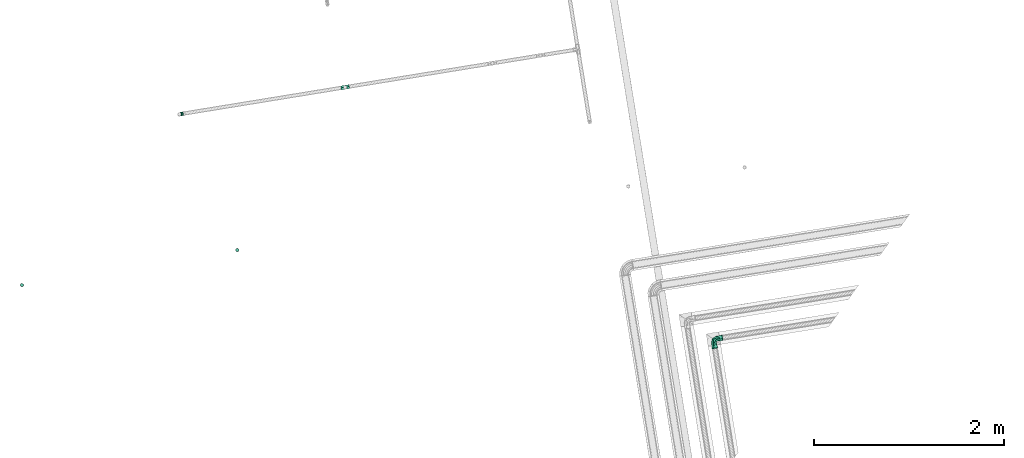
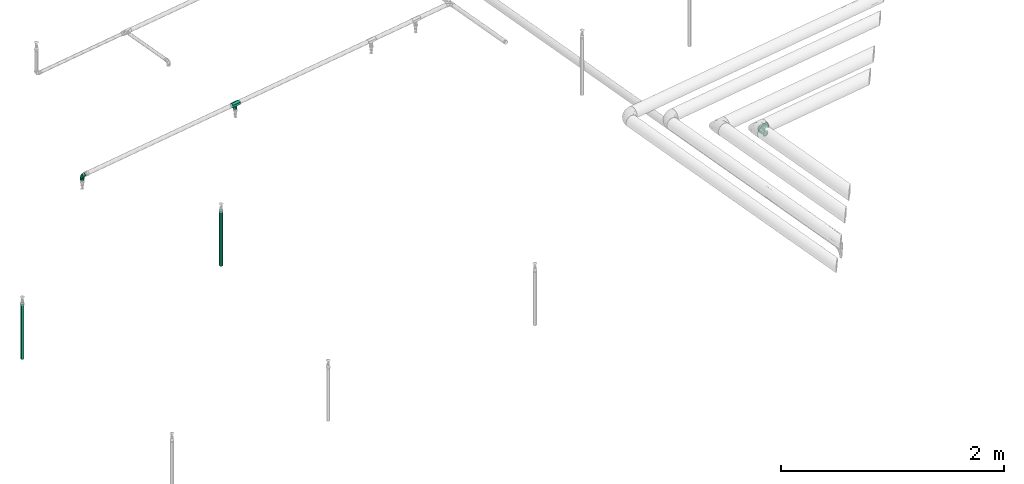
# One storey, part 20 of 46: 3 flow fittings, 2 flow segments.
"""IFC2X3 building model written with IfcOpenShell, lengths in millimetres."""

from ifc_helpers import new_model, entity, si_unit, converted_unit, derived_unit, direction, frame, origin, origin_with_axes, origin_2d_with_axis, place, context, subcontext, project, spatial, circle, extrude, faceted_brep, source, transform, mapped, material, material_list, type_object, element, save


model = new_model("IFC2X3")

# Units and contexts
model_context = context("Model", 3, precision=0.01, world=origin(), true_north=direction((6.12323399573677e-17, 1.0)))
plan_context = context("Plan", 3, precision=1e-05, world=origin_with_axes())
body_context = subcontext(model_context, "Body", "Model", "MODEL_VIEW")
ifc_project = project(units=[converted_unit("PLANEANGLEUNIT", "DEGREE", entity("IfcPositiveLengthMeasure", 0.0174532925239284), si_unit("PLANEANGLEUNIT", "RADIAN"), dimensions=[0, 0, 0, 0, 0, 0, 0]), si_unit("AREAUNIT", "SQUARE_METRE"), si_unit("LENGTHUNIT", "METRE", prefix="MILLI"), si_unit("MASSUNIT", "GRAM", prefix="KILO"), si_unit("POWERUNIT", "WATT"), si_unit("PRESSUREUNIT", "PASCAL", prefix="KILO"), si_unit("FORCEUNIT", "NEWTON", prefix="KILO"), si_unit("ELECTRICVOLTAGEUNIT", "VOLT"), si_unit("ELECTRICCURRENTUNIT", "AMPERE"), si_unit("THERMODYNAMICTEMPERATUREUNIT", "DEGREE_CELSIUS"), si_unit("TIMEUNIT", "SECOND"), si_unit("VOLUMEUNIT", "CUBIC_METRE"), derived_unit("LINEARVELOCITYUNIT", [(si_unit("LENGTHUNIT", "METRE"), 1), (si_unit("TIMEUNIT", "SECOND"), -1)]), derived_unit("VOLUMETRICFLOWRATEUNIT", [(si_unit("VOLUMEUNIT", "CUBIC_METRE"), 1), (si_unit("TIMEUNIT", "SECOND"), -1)]), derived_unit("THERMALTRANSMITTANCEUNIT", [(si_unit("POWERUNIT", "WATT"), 1), (si_unit("THERMODYNAMICTEMPERATUREUNIT", "KELVIN"), -1), (si_unit("AREAUNIT", "SQUARE_METRE"), -1)]), derived_unit("SOUNDPRESSUREUNIT", [(si_unit("PRESSUREUNIT", "PASCAL"), 1)])], contexts=[model_context, plan_context])

# Site, building, storey
site_placement = place(None, frame((-3.09682673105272e-06, 1.93776733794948e-05, 0.0), z_axis=(0.0, 0.0, 1.0), x_axis=(-0.160806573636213, 0.986985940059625, 0.0)))
site = spatial("IfcSite", under=ifc_project, at=site_placement, Name="Default", CompositionType="ELEMENT")
building_placement = place(site_placement, frame((0.0, 0.0, 0.0), z_axis=(0.0, 0.0, 1.0), x_axis=(1.0, -2.77555756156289e-17, 0.0)))
building = spatial("IfcBuilding", under=site, at=building_placement, Name="Bygning (endres i Project Information)", CompositionType="ELEMENT")
storey_placement = place(building_placement, frame((0.0, 0.0, 51360.0000000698), z_axis=(0.0, 0.0, 1.0), x_axis=(1.0, -2.77555756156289e-17, 0.0)))
storey = spatial("IfcBuildingStorey", under=building, at=storey_placement, Name="H01-Nivå D+0,36", CompositionType="ELEMENT", Elevation=51360.0000000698)

# Flow fittings
ifc_material_1 = material(Name="3320.001")
pipe_fitting_type_1 = type_object("IfcPipeFittingType", Name="RS_53_PIF_UN_Tee-Reduced-EN10241_MC_gen:RS_53_PIF_UN_Tee-Reduced-EN10241_MC_gen", PredefinedType="NOTDEFINED", material=ifc_material_1)
shared_shape_1 = source(origin(), body_context, "Body", "Brep", [
    faceted_brep([(44.0, 24.4999999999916, 0.0), (44.0, 18.3749999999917, 10.6088111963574), (44.0, 12.2499999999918, 21.2176223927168), (44.0, 0.0, 21.2176223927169), (44.0, -12.2500000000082, 21.217622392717), (44.0, -18.3750000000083, 10.6088111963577), (44.0, -24.5000000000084, 0.0), (44.0, -21.6281924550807, -4.97411657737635), (44.0, -18.3750000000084, -10.6088111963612), (44.0, -12.2500000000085, -21.2176223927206), (44.0, 0.0, -21.2176223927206), (44.0, 12.2499999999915, -21.2176223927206), (44.0, 18.3749999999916, -10.6088111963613), (-44.0, -12.2500000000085, -21.2176223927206), (-44.0, -18.3750000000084, -10.6088111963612), (-44.0, -24.5000000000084, 0.0), (-44.0, -21.6281923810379, 4.97411670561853), (-44.0, -18.3750000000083, 10.6088111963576), (-44.0, -12.2500000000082, 21.217622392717), (-44.0, 0.0, 21.2176223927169), (-44.0, 12.2499999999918, 21.2176223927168), (-44.0, 18.7563847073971, 9.94823350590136), (-44.0, 24.4999999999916, 0.0), (-44.0, 18.3749999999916, -10.6088111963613), (-44.0, 12.2499999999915, -21.2176223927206), (-44.0, 0.0, -21.2176223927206), (-8.07289668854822, -19.7195683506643, 9.70917342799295), (3.60420662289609, -14.9391367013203, 19.4183468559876), (15.7135516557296, -22.1097841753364, 4.85458671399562), (-19.7499999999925, -24.5000000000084, 0.0), (11.6771033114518, -19.7195683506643, 9.70917342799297), (19.7500000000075, -24.5000000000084, 0.0), (-15.715142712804, -22.1101683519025, -4.85429113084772), (-3.61057085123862, -14.9406734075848, -19.4171645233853), (-11.6802854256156, -19.7203367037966, -9.70858226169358), (8.06971457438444, -19.7203367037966, -9.70858226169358), (9.87500000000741, -51.0, -17.1040017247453), (14.8125000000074, -51.0, -8.55200086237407), (19.7500000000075, -51.0, 0.0), (14.8125000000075, -51.0, 8.55200086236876), (9.87500000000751, -51.0, 17.1040017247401), (0.0, -51.0, 17.1040017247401), (-9.87499999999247, -51.0, 17.1040017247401), (-14.8124999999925, -51.0, 8.55200086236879), (-19.7499999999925, -51.0, 0.0), (-14.8124999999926, -51.0, -8.55200086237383), (-9.87499999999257, -51.0, -17.1040017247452), (0.0, -51.0, -17.1040017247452)], [[[0, 1, 2, 3, 4, 5, 6, 7, 8, 9, 10, 11, 12]], [[13, 14, 15, 16, 17, 18, 19, 20, 21, 22, 23, 24, 25]], [[1, 0, 22, 21, 20, 2]], [[2, 20, 19, 3]], [[26, 17, 16]], [[18, 27, 19]], [[28, 6, 5]], [[29, 16, 15]], [[5, 27, 30, 28]], [[5, 4, 27]], [[27, 17, 26]], [[17, 27, 18]], [[26, 16, 29]], [[6, 28, 31]], [[19, 27, 3]], [[4, 3, 27]], [[32, 15, 14]], [[14, 33, 34, 32]], [[31, 7, 6]], [[35, 8, 7]], [[8, 33, 9]], [[33, 8, 35]], [[15, 32, 29]], [[24, 23, 22, 0, 12, 11]], [[25, 24, 11, 10]], [[14, 13, 33]], [[13, 25, 33]], [[35, 7, 31]], [[10, 33, 25]], [[10, 9, 33]], [[36, 37, 38, 39, 40, 41, 42, 43, 44, 45, 46, 47]], [[29, 45, 44]], [[34, 46, 45]], [[35, 36, 47]], [[33, 46, 34]], [[37, 36, 35]], [[45, 29, 32, 34]], [[31, 37, 35]], [[37, 31, 38]], [[47, 46, 33]], [[35, 47, 33]], [[31, 39, 38]], [[30, 40, 39]], [[26, 42, 41]], [[27, 40, 30]], [[43, 42, 26]], [[39, 31, 28, 30]], [[29, 43, 26]], [[43, 29, 44]], [[41, 40, 27]], [[26, 41, 27]]]),
])
flow_fitting_1_placement = place(storey_placement, frame((1002299.88520526, -344152.032953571, 3458.80002629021), z_axis=(1.0, -2.77555756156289e-17, 0.0), x_axis=(2.77555756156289e-17, 1.0, 0.0)))
element("IfcFlowFitting", 1, at=flow_fitting_1_placement, inside=storey, type_object=pipe_fitting_type_1, material=ifc_material_1, Name="RS_53_PIF_UN_Tee-Reduced-EN10241_MC_gen:RS_53_PIF_UN_Tee-Reduced-EN10241_MC_gen", ObjectType="RS_53_PIF_UN_Tee-Reduced-EN10241_MC_gen:RS_53_PIF_UN_Tee-Reduced-EN10241_MC_gen", context=body_context, shape_type="MappedRepresentation", body=[
    mapped(shared_shape_1, transform((0.0, 0.0, 0.0), scale=1.0)),
])
pipe_fitting_type_2 = type_object("IfcPipeFittingType", Name="RS_53_PIF_UN_Elbow-EN10241_NOR:RS_53_PIF_UN_Elbow-EN10241_NOR", PredefinedType="NOTDEFINED", material=ifc_material_1)
shared_shape_2 = source(origin(), body_context, "Body", "Brep", [
    faceted_brep([(-43.0, 5.11167614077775, 19.0770350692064), (-43.0, 17.1040017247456, 9.87499999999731), (-43.0, 19.7500000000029, 0.0), (-43.0, 17.1040017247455, -9.87500000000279), (-43.0, 5.11167614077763, -19.0770350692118), (-43.0, -5.11167614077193, -19.0770350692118), (-43.0, -17.1040017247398, -9.87500000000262), (-43.0, -19.7499999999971, 0.0), (-43.0, -17.1040017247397, 9.87499999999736), (-43.0, -5.11167614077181, 19.0770350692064), (-21.7499999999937, -19.7499999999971, 0.0), (-21.7499999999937, -15.1293510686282, -12.6950870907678), (-21.7499999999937, -3.42946974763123, -19.4499675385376), (-21.7499999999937, 15.1294711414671, -12.694943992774), (-21.7499999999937, 19.7500000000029, 0.0), (-21.7499999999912, 5.85000069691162, -16.072455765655), (-21.7499999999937, 15.1294711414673, 12.6949439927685), (-21.7499999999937, 3.42965371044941, 19.4499351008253), (-21.7499999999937, -15.1293510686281, 12.6950870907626), (-5.41688095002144, -10.3200693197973, 0.0), (0.655979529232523, -2.00253561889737, 16.4678355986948), (-11.0449015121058, 9.84579831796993, 18.897380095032), (-18.5589216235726, 21.7499999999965, 6.75491881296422), (-15.1293490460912, 21.7499999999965, 12.6950895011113), (-20.3357864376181, 20.3357864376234, 0.0), (-19.7499999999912, 21.7499999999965, 0.0), (14.190054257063, 1.0, 0.0), (12.6950125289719, 21.7499999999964, 15.1294136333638), (6.75482439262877, 21.7499999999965, 18.5589559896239), (17.2232575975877, 12.3200689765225, 0.0), (-6.754824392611, 21.7499999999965, 18.558955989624), (19.7500000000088, 21.7499999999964, 0.0), (18.5589216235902, 21.7499999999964, 6.75491881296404), (0.0, 21.7499999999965, 19.7499999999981), (-18.5589216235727, 21.7499999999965, -6.75491881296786), (-10.1618436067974, 10.1618877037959, -19.0082217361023), (1.2569166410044, -0.890945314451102, -16.7093898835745), (0.0, 21.7499999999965, -19.7500000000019), (-6.75482439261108, 21.7499999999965, -18.5589559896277), (-12.6950125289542, 21.7499999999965, -15.1294136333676), (18.5589216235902, 21.7499999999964, -6.75491881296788), (15.1293490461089, 21.7499999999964, -12.6950895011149), (6.75482439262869, 21.7499999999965, -18.5589559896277), (-9.8749999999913, 43.0, 17.1040017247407), (0.0, 43.0, 19.7499999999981), (9.8750000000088, 43.0, 17.1040017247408), (19.0770350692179, 43.0, 5.11167614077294), (19.0770350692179, 43.0, -5.11167614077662), (9.87500000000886, 43.0, -17.1040017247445), (0.0, 43.0, -19.7500000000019), (-9.87499999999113, 43.0, -17.1040017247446), (-19.0770350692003, 43.0, -5.11167614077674), (-19.0770350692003, 43.0, 5.11167614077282)], [[[0, 1, 2, 3, 4, 5, 6, 7, 8, 9]], [[7, 6, 10]], [[6, 11, 10]], [[11, 6, 5]], [[11, 5, 12]], [[13, 4, 3]], [[14, 3, 2]], [[4, 13, 15, 12]], [[13, 3, 14]], [[4, 12, 5]], [[2, 1, 14]], [[1, 16, 14]], [[16, 1, 0]], [[16, 0, 17]], [[18, 9, 8]], [[10, 8, 7]], [[9, 18, 17]], [[18, 8, 10]], [[9, 17, 0]], [[18, 19, 20]], [[20, 21, 17]], [[22, 16, 23]], [[16, 17, 21]], [[24, 14, 22]], [[22, 25, 24]], [[14, 16, 22]], [[20, 26, 27]], [[27, 28, 20]], [[26, 29, 27]], [[23, 21, 30]], [[31, 32, 29]], [[18, 20, 17]], [[26, 20, 19]], [[21, 23, 16]], [[18, 10, 19]], [[33, 21, 20]], [[33, 30, 21]], [[27, 29, 32]], [[33, 20, 28]], [[14, 24, 34]], [[25, 34, 24]], [[12, 35, 36]], [[14, 34, 13]], [[36, 19, 11]], [[37, 35, 38]], [[38, 35, 39]], [[10, 11, 19]], [[34, 39, 13]], [[37, 36, 35]], [[36, 11, 12]], [[39, 35, 13]], [[40, 31, 29]], [[41, 36, 42]], [[36, 37, 42]], [[41, 40, 29]], [[26, 36, 41]], [[29, 26, 41]], [[19, 36, 26]], [[13, 35, 12, 15]], [[43, 44, 45, 46, 47, 48, 49, 50, 51, 52]], [[49, 37, 38]], [[50, 38, 39]], [[49, 38, 50]], [[51, 50, 39]], [[51, 34, 25]], [[34, 51, 39]], [[52, 25, 22]], [[22, 23, 52]], [[30, 43, 23]], [[52, 23, 43]], [[44, 43, 30]], [[33, 44, 30]], [[25, 52, 51]], [[44, 33, 28]], [[45, 28, 27]], [[44, 28, 45]], [[46, 45, 27]], [[46, 32, 31]], [[32, 46, 27]], [[47, 31, 40]], [[40, 41, 47]], [[42, 48, 41]], [[47, 41, 48]], [[49, 48, 42]], [[37, 49, 42]], [[31, 47, 46]]]),
])
flow_fitting_2_placement = place(storey_placement, frame((1002299.88520526, -342381.062917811, 3458.79748285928), z_axis=(1.0, -2.77555756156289e-17, 0.0), x_axis=(0.0, 0.0, 1.0)))
element("IfcFlowFitting", 2, at=flow_fitting_2_placement, inside=storey, type_object=pipe_fitting_type_2, material=ifc_material_1, Name="RS_53_PIF_UN_Elbow-EN10241_NOR:RS_53_PIF_UN_Elbow-EN10241_NOR", ObjectType="RS_53_PIF_UN_Elbow-EN10241_NOR:RS_53_PIF_UN_Elbow-EN10241_NOR", context=body_context, shape_type="MappedRepresentation", body=[
    mapped(shared_shape_2, transform((0.0, 0.0, 0.0), scale=1.0)),
])
ifc_material_2 = material(Name="Geberit_Plastic_Red")
ifc_material_3 = material(Name="Geberit_Mapress_C-Steel")
ifc_material_list = material_list([ifc_material_2, ifc_material_3])
pipe_fitting_type_3 = type_object("IfcPipeFittingType", Name="PRO_103184:DN10-100 / d12-108 - OD", PredefinedType="BEND", material=ifc_material_list)
shared_shape_3 = source(origin(), body_context, "Body", "Brep", [
    faceted_brep([(-8.80698433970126, 100.0, -27.1051107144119), (-9.84650783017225, 92.0, -13.552555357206), (-6.27743726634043, 92.0, -16.1456369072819), (8.80698433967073, 92.0, -27.1051107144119), (-15.6876901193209, 100.0, -17.6346316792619), (-28.5000000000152, 92.0, 0.0), (9.84650783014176, 100.0, -13.552555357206), (18.6534921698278, 92.0, -13.552555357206), (28.4999999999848, 92.0, 0.0), (28.4999999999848, 100.0, 0.0), (-28.5000000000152, 100.0, 0.0), (8.80698433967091, 100.0, 27.1051107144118), (9.84650783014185, 92.0, 13.5525553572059), (6.27743726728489, 92.0, 16.1456369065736), (-8.80698433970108, 92.0, 27.1051107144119), (15.6876904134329, 100.0, 17.6346312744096), (-9.84650783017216, 100.0, 13.552555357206), (-18.6534921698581, 92.0, 13.5525553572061), (-23.6776285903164, 98.4509619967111, -21.0189790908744), (-23.6307699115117, 94.6274304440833, -21.9569893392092), (-32.5000000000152, 96.0, 0.0), (-1.90597797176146, 95.9349964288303, -32.4435342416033), (23.6776286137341, 93.5490379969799, -21.0189790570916), (32.4999999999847, 96.0, 0.0), (-6.15280214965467, 98.7902501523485, -30.7567062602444), (22.1275082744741, 97.7912013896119, -23.222347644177), (23.6776285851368, 98.4509619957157, 21.0189790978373), (23.6307699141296, 94.6274304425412, 21.9569893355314), (1.90597798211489, 95.9349964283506, 32.4435342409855), (-23.6776286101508, 93.5490379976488, 21.0189790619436), (6.15280214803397, 98.7902501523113, 30.7567062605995), (-22.1275082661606, 97.7912013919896, 23.2223476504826)], [[[0, 1, 2, 3]], [[4, 1, 0]], [[4, 5, 1]], [[6, 0, 3]], [[6, 3, 7]], [[7, 8, 9]], [[4, 10, 5]], [[6, 7, 9]], [[11, 12, 13, 14]], [[15, 8, 12]], [[15, 12, 11]], [[16, 14, 17]], [[17, 5, 10]], [[16, 17, 10]], [[15, 9, 8]], [[16, 11, 14]], [[18, 10, 4, 0]], [[19, 2, 1, 5]], [[18, 19, 20]], [[3, 2, 21]], [[5, 20, 19]], [[3, 21, 22]], [[23, 8, 22]], [[19, 18, 21]], [[20, 10, 18]], [[22, 8, 7, 3]], [[0, 24, 18]], [[25, 23, 22]], [[21, 2, 19]], [[24, 6, 25]], [[25, 22, 21]], [[25, 21, 24]], [[9, 23, 25]], [[21, 18, 24]], [[6, 24, 0]], [[6, 9, 25]], [[26, 9, 15, 11]], [[27, 13, 12, 8]], [[26, 27, 23]], [[14, 13, 28]], [[8, 23, 27]], [[14, 28, 29]], [[20, 5, 29]], [[27, 26, 28]], [[23, 9, 26]], [[29, 5, 17, 14]], [[11, 30, 26]], [[31, 20, 29]], [[28, 13, 27]], [[30, 16, 31]], [[31, 29, 28]], [[31, 28, 30]], [[10, 20, 31]], [[28, 26, 30]], [[16, 30, 11]], [[16, 10, 31]]]),
    faceted_brep([(-8.3434588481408, 100.0, -25.6785259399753), (-9.32827057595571, 64.0, -12.8392629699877), (-0.492405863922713, 64.0, -19.2588944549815), (8.34345884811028, 64.0, -25.6785259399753), (-15.3088252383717, 100.0, -16.0915215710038), (-27.0, 64.0, 0.0), (-18.1641352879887, 64.0, -6.41963148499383), (-27.0, 100.0, 0.0), (9.32827057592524, 100.0, -12.8392629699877), (13.0075941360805, 64.0, -19.2588944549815), (17.6717294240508, 64.0, -12.8392629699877), (27.0, 100.0, 0.0), (22.335864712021, 64.0, -6.4196314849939), (27.0, 64.0, 0.0), (8.34345884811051, 100.0, 25.6785259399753), (9.32827057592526, 64.0, 12.8392629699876), (0.492405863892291, 64.0, 19.2588944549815), (-8.34345884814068, 64.0, 25.6785259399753), (15.3088252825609, 100.0, 16.0915215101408), (18.1641352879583, 64.0, 6.41963148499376), (-9.32827057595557, 100.0, 12.8392629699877), (-13.0075941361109, 64.0, 19.2588944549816), (-17.6717294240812, 64.0, 12.8392629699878), (-22.3358647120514, 64.0, 6.419631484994), (28.4999999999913, 100.0, 0.0), (9.84650783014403, 100.0, -13.5525553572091), (-8.80698433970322, 100.0, -27.105110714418), (18.6534921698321, 100.0, 13.5525553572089), (8.80698433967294, 100.0, 27.105110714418), (-18.6534921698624, 100.0, -13.552555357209), (-28.5000000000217, 100.0, 0.0), (-9.84650783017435, 100.0, 13.5525553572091), (-18.6534921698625, 65.0, -13.552555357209), (-23.5767460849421, 65.0, -6.7762776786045), (-28.5000000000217, 65.0, 0.0), (-8.80698433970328, 65.0, -27.105110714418), (-13.7302382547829, 65.0, -20.3288330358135), (28.4999999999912, 65.0, 0.0), (19.1732539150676, 65.0, -6.77627767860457), (12.3186749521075, 65.0, -11.7564208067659), (9.84650783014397, 65.0, -13.5525553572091), (0.519761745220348, 65.0, -20.3288330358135), (18.6534921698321, 65.0, 13.5525553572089), (23.5767460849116, 65.0, 6.77627767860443), (8.80698433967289, 65.0, 27.105110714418), (13.7302382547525, 65.0, 20.3288330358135), (-19.1732539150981, 65.0, 6.77627767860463), (-12.3186749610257, 65.0, 11.7564208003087), (-9.84650783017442, 65.0, 13.5525553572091), (-0.519761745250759, 65.0, 20.3288330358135)], [[[0, 1, 2, 3]], [[4, 5, 6, 1]], [[4, 7, 5]], [[8, 3, 9, 10]], [[11, 10, 12, 13]], [[8, 10, 11]], [[8, 0, 3]], [[4, 1, 0]], [[14, 15, 16, 17]], [[18, 13, 19, 15]], [[18, 11, 13]], [[20, 17, 21, 22]], [[7, 22, 23, 5]], [[20, 22, 7]], [[20, 14, 17]], [[18, 15, 14]], [[11, 24, 25]], [[11, 25, 26]], [[26, 8, 11]], [[11, 27, 24]], [[11, 28, 27]], [[28, 11, 18]], [[28, 18, 14]], [[28, 14, 20]], [[28, 20, 7]], [[7, 26, 29]], [[26, 7, 4]], [[7, 29, 30]], [[7, 30, 31]], [[7, 31, 28]], [[26, 4, 0]], [[26, 0, 8]], [[32, 33, 34, 30, 29, 26, 35, 36]], [[24, 37, 38, 39, 40, 41, 35, 26, 25]], [[42, 43, 37, 24, 27, 28, 44, 45]], [[30, 34, 46, 47, 48, 49, 44, 28, 31]], [[1, 6, 32]], [[34, 33, 5]], [[5, 33, 6]], [[36, 35, 1, 32]], [[10, 40, 39, 38]], [[9, 3, 40, 10]], [[6, 33, 32]], [[41, 2, 35]], [[38, 12, 10]], [[2, 41, 3]], [[37, 12, 38]], [[13, 12, 37]], [[40, 3, 41]], [[35, 2, 1]], [[15, 19, 42]], [[37, 43, 13]], [[13, 43, 19]], [[45, 44, 15, 42]], [[22, 48, 47, 46]], [[21, 17, 48, 22]], [[19, 43, 42]], [[49, 16, 44]], [[46, 23, 22]], [[16, 49, 17]], [[34, 23, 46]], [[5, 23, 34]], [[48, 17, 49]], [[44, 16, 15]]]),
    faceted_brep([(-100.0, -8.8069843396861, -27.1051107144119), (-92.0, -9.84650783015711, -13.552555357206), (-92.0, -6.27743726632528, -16.1456369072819), (-92.0, 8.80698433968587, -27.1051107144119), (-100.0, -15.6876901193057, -17.6346316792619), (-92.0, -28.5000000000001, 0.0), (-100.0, 9.84650783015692, -13.552555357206), (-92.0, 18.6534921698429, -13.552555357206), (-92.0, 28.4999999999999, 0.0), (-100.0, 28.4999999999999, 0.0), (-100.0, -28.5000000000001, 0.0), (-100.0, 8.80698433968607, 27.1051107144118), (-92.0, 9.84650783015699, 13.5525553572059), (-92.0, 6.27743726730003, 16.1456369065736), (-92.0, -8.80698433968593, 27.1051107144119), (-100.0, 15.687690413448, 17.6346312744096), (-100.0, -9.846507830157, 13.552555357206), (-92.0, -18.653492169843, 13.5525553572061), (-98.4509619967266, -23.6776285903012, -21.0189790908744), (-94.6274304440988, -23.6307699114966, -21.9569893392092), (-96.0, -32.5, 0.0), (-95.9349964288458, -1.90597797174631, -32.4435342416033), (-93.5490379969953, 23.6776286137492, -21.0189790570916), (-96.0, 32.4999999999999, 0.0), (-98.790250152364, -6.15280214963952, -30.7567062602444), (-97.7912013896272, 22.1275082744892, -23.222347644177), (-98.4509619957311, 23.677628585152, 21.0189790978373), (-94.6274304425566, 23.6307699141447, 21.9569893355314), (-95.934996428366, 1.90597798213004, 32.4435342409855), (-93.5490379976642, -23.6776286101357, 21.0189790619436), (-98.7902501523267, 6.15280214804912, 30.7567062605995), (-97.7912013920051, -22.1275082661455, 23.2223476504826)], [[[0, 1, 2, 3]], [[4, 1, 0]], [[4, 5, 1]], [[6, 0, 3]], [[6, 3, 7]], [[7, 8, 9]], [[4, 10, 5]], [[6, 7, 9]], [[11, 12, 13, 14]], [[15, 8, 12]], [[15, 12, 11]], [[16, 14, 17]], [[17, 5, 10]], [[16, 17, 10]], [[15, 9, 8]], [[16, 11, 14]], [[18, 10, 4, 0]], [[19, 2, 1, 5]], [[18, 19, 20]], [[3, 2, 21]], [[5, 20, 19]], [[3, 21, 22]], [[23, 8, 22]], [[19, 18, 21]], [[20, 10, 18]], [[22, 8, 7, 3]], [[0, 24, 18]], [[25, 23, 22]], [[21, 2, 19]], [[24, 6, 25]], [[25, 22, 21]], [[25, 21, 24]], [[9, 23, 25]], [[21, 18, 24]], [[6, 24, 0]], [[6, 9, 25]], [[26, 9, 15, 11]], [[27, 13, 12, 8]], [[26, 27, 23]], [[14, 13, 28]], [[8, 23, 27]], [[14, 28, 29]], [[20, 5, 29]], [[27, 26, 28]], [[23, 9, 26]], [[29, 5, 17, 14]], [[11, 30, 26]], [[31, 20, 29]], [[28, 13, 27]], [[30, 16, 31]], [[31, 29, 28]], [[31, 28, 30]], [[10, 20, 31]], [[28, 26, 30]], [[16, 30, 11]], [[16, 10, 31]]]),
    faceted_brep([(-100.0, -8.34345884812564, -25.6785259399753), (-64.0, -9.32827057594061, -12.8392629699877), (-64.0, -0.492405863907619, -19.2588944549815), (-64.0, 8.34345884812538, -25.6785259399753), (-100.0, -15.3088252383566, -16.0915215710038), (-64.0, -27.0, 0.0), (-64.0, -18.1641352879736, -6.41963148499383), (-100.0, -27.0, 0.0), (-100.0, 9.32827057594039, -12.8392629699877), (-64.0, 13.0075941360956, -19.2588944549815), (-64.0, 17.6717294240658, -12.8392629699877), (-100.0, 27.0, 0.0), (-64.0, 22.3358647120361, -6.4196314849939), (-64.0, 27.0, 0.0), (-100.0, 8.34345884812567, 25.6785259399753), (-64.0, 9.32827057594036, 12.8392629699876), (-64.0, 0.492405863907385, 19.2588944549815), (-64.0, -8.34345884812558, 25.6785259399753), (-100.0, 15.3088252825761, 16.0915215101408), (-64.0, 18.1641352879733, 6.41963148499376), (-100.0, -9.32827057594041, 12.8392629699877), (-64.0, -13.0075941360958, 19.2588944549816), (-64.0, -17.6717294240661, 12.8392629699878), (-64.0, -22.3358647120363, 6.419631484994), (-100.0, 28.5000000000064, 0.0), (-100.0, 9.84650783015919, -13.5525553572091), (-100.0, -8.80698433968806, -27.105110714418), (-100.0, 18.6534921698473, 13.5525553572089), (-100.0, 8.80698433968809, 27.105110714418), (-100.0, -18.6534921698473, -13.552555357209), (-100.0, -28.5000000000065, 0.0), (-100.0, -9.84650783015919, 13.5525553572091), (-65.0, -18.6534921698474, -13.552555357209), (-65.0, -23.576746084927, -6.7762776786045), (-65.0, -28.5000000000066, 0.0), (-65.0, -8.80698433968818, -27.105110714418), (-65.0, -13.7302382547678, -20.3288330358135), (-65.0, 28.5000000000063, 0.0), (-65.0, 19.1732539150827, -6.77627767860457), (-65.0, 12.3186749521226, -11.7564208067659), (-65.0, 9.84650783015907, -13.5525553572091), (-65.0, 0.519761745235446, -20.3288330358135), (-65.0, 18.6534921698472, 13.5525553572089), (-65.0, 23.5767460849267, 6.77627767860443), (-65.0, 8.80698433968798, 27.105110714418), (-65.0, 13.7302382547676, 20.3288330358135), (-65.0, -19.173253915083, 6.77627767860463), (-65.0, -12.3186749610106, 11.7564208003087), (-65.0, -9.84650783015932, 13.5525553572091), (-65.0, -0.519761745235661, 20.3288330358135)], [[[0, 1, 2, 3]], [[4, 5, 6, 1]], [[4, 7, 5]], [[8, 3, 9, 10]], [[11, 10, 12, 13]], [[8, 10, 11]], [[8, 0, 3]], [[4, 1, 0]], [[14, 15, 16, 17]], [[18, 13, 19, 15]], [[18, 11, 13]], [[20, 17, 21, 22]], [[7, 22, 23, 5]], [[20, 22, 7]], [[20, 14, 17]], [[18, 15, 14]], [[11, 24, 25]], [[11, 25, 26]], [[26, 8, 11]], [[11, 27, 24]], [[11, 28, 27]], [[28, 11, 18]], [[28, 18, 14]], [[28, 14, 20]], [[28, 20, 7]], [[7, 26, 29]], [[26, 7, 4]], [[7, 29, 30]], [[7, 30, 31]], [[7, 31, 28]], [[26, 4, 0]], [[26, 0, 8]], [[32, 33, 34, 30, 29, 26, 35, 36]], [[24, 37, 38, 39, 40, 41, 35, 26, 25]], [[42, 43, 37, 24, 27, 28, 44, 45]], [[30, 34, 46, 47, 48, 49, 44, 28, 31]], [[1, 6, 32]], [[34, 33, 5]], [[5, 33, 6]], [[36, 35, 1, 32]], [[10, 40, 39, 38]], [[9, 3, 40, 10]], [[6, 33, 32]], [[41, 2, 35]], [[38, 12, 10]], [[2, 41, 3]], [[37, 12, 38]], [[13, 12, 37]], [[40, 3, 41]], [[35, 2, 1]], [[15, 19, 42]], [[37, 43, 13]], [[13, 43, 19]], [[45, 44, 15, 42]], [[22, 48, 47, 46]], [[21, 17, 48, 22]], [[19, 43, 42]], [[49, 16, 44]], [[46, 23, 22]], [[16, 49, 17]], [[34, 23, 46]], [[5, 23, 34]], [[48, 17, 49]], [[44, 16, 15]]]),
    faceted_brep([(-65.0, -27.0, 0.0), (-65.0, -23.38268590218, 13.4999999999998), (-65.0, -6.98811421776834, 26.0799973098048), (-65.0, 6.98811421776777, 26.0799973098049), (-65.0, 23.3826859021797, 13.5000000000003), (-65.0, 27.0, 0.0), (-65.0, 23.3826859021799, -13.5), (-65.0, 6.98811421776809, -26.0799973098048), (-65.0, -6.98811421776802, -26.0799973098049), (-65.0, -23.3826859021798, -13.5000000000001), (-32.0, -27.0, 0.0), (-32.0, -23.38268590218, 13.4999999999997), (-32.0, -6.98811421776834, 26.0799973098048), (-32.0, 6.98811421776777, 26.0799973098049), (6.98811421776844, 65.0, 26.0799973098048), (-6.98811421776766, 65.0, 26.0799973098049), (-6.98811421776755, 32.0, 26.079997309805), (6.98811421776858, 32.0, 26.0799973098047), (-32.0, 23.3826859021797, 13.5000000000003), (-32.0, 27.0, 0.0), (-32.0, 23.3826859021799, -13.5), (-32.0, 6.98811421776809, -26.0799973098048), (-32.0, -6.98811421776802, -26.0799973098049), (-6.98811421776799, 65.0, -26.0799973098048), (6.98811421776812, 65.0, -26.0799973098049), (6.98811421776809, 32.0, -26.0799973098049), (-6.98811421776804, 32.0, -26.0799973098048), (-32.0, -23.3826859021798, -13.5000000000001), (16.9310720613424, 7.69145761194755, 0.0), (27.0, 32.0, 0.0), (23.3826859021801, 32.0, 13.4999999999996), (16.2465635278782, 10.9007021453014, 17.3847310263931), (-3.16179884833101, 3.16179622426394, 25.5313980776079), (-7.69145902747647, -16.931072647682, 0.0), (-10.9007067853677, -16.2465642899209, 17.3847324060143), (-28.4644660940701, 28.4644660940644, 0.0), (-23.3826859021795, 32.0, 13.5000000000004), (-17.4984421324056, 17.498441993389, 24.4323725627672), (9.71930008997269, -9.71930009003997, 0.0), (-27.0, 32.0, 0.0), (16.2465630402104, 10.9007037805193, -17.3847323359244), (23.3826859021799, 32.0, -13.5), (-17.4984431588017, 17.4984410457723, -24.4323725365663), (-3.16179542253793, 3.16179350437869, -25.5313965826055), (-10.9007057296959, -16.2465641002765, -17.384732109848), (-23.3826859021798, 32.0, -13.5), (-23.3826859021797, 65.0, -13.5), (-27.0, 65.0, 0.0), (-23.3826859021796, 65.0, 13.5000000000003), (23.3826859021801, 65.0, 13.4999999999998), (27.0, 65.0, 0.0), (23.3826859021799, 65.0, -13.5000000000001)], [[[0, 1, 2, 3, 4, 5, 6, 7, 8, 9]], [[0, 10, 11, 1]], [[1, 11, 12, 2]], [[12, 13, 3, 2]], [[14, 15, 16, 17]], [[3, 13, 18, 4]], [[4, 18, 19, 5]], [[5, 19, 20, 6]], [[6, 20, 21, 7]], [[21, 22, 8, 7]], [[23, 24, 25, 26]], [[8, 22, 27, 9]], [[9, 27, 10, 0]], [[28, 29, 30]], [[31, 28, 30]], [[13, 12, 32]], [[11, 33, 34]], [[17, 32, 31]], [[35, 18, 36]], [[31, 32, 34]], [[35, 19, 18]], [[18, 13, 37]], [[34, 12, 11]], [[34, 38, 31]], [[30, 17, 31]], [[32, 37, 13]], [[11, 10, 33]], [[31, 38, 28]], [[18, 37, 36]], [[35, 36, 39]], [[38, 34, 33]], [[36, 37, 16]], [[16, 37, 32]], [[32, 12, 34]], [[17, 16, 32]], [[40, 25, 41]], [[33, 10, 27]], [[42, 21, 20]], [[21, 42, 43]], [[27, 22, 44]], [[43, 42, 26]], [[33, 44, 38]], [[22, 21, 43]], [[44, 43, 40]], [[38, 40, 28]], [[20, 19, 35]], [[35, 39, 45]], [[45, 42, 20]], [[41, 29, 28]], [[26, 42, 45]], [[22, 43, 44]], [[41, 28, 40]], [[44, 40, 38]], [[43, 25, 40]], [[44, 33, 27]], [[25, 43, 26]], [[45, 20, 35]], [[23, 46, 47, 48, 15, 14, 49, 50, 51, 24]], [[29, 50, 49, 30]], [[30, 49, 14, 17]], [[16, 15, 48, 36]], [[36, 48, 47, 39]], [[39, 47, 46, 45]], [[45, 46, 23, 26]], [[25, 24, 51, 41]], [[41, 51, 50, 29]]]),
])
flow_fitting_3_placement = place(storey_placement, frame((999053.436842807, -347557.431189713, 3440.0), z_axis=(0.0, 0.0, 1.0), x_axis=(2.77555756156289e-17, 1.0, 0.0)))
element("IfcFlowFitting", 3, at=flow_fitting_3_placement, inside=storey, type_object=pipe_fitting_type_3, material=ifc_material_list, Name="PRO_103184:DN10-100 / d12-108 - OD", ObjectType="PRO_103184:DN10-100 / d12-108 - OD", context=body_context, shape_type="MappedRepresentation", body=[
    mapped(shared_shape_3, transform((0.0, 0.0, 0.0), scale=1.0)),
])

# Flow segments
pipe_segment_type = type_object("IfcPipeSegmentType", Name="Pipe Types:Stålrør sveist og gjenget", PredefinedType="NOTDEFINED", material=ifc_material_1)
flow_segment_1_placement = place(storey_placement, frame((0.0, 0.0, 0.0), z_axis=(0.0, 0.0, 1.0), x_axis=(1.0, -2.77555756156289e-17, 0.0)))
element("IfcFlowSegment", 4, at=flow_segment_1_placement, inside=storey, type_object=pipe_segment_type, Name="Pipe Types:Stålrør sveist og gjenget", ObjectType="Pipe Types:Stålrør sveist og gjenget", context=body_context, shape_type="SweptSolid", body=[
    extrude(circle(Radius=16.8500004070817, at=origin_2d_with_axis()), frame((1000788.36764383, -342753.710112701, 3131.90153923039), z_axis=(0.0, -3.16675235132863e-07, 1.0), x_axis=(-1.0, 0.0, 0.0)), (0.0, 0.0, 1.0), 604.910579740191),
])
flow_segment_2_placement = place(storey_placement, frame((0.0, 0.0, 0.0), z_axis=(0.0, 0.0, 1.0), x_axis=(1.0, -2.77555756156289e-17, 0.0)))
element("IfcFlowSegment", 5, at=flow_segment_2_placement, inside=storey, type_object=pipe_segment_type, Name="Pipe Types:Stålrør sveist og gjenget", ObjectType="Pipe Types:Stålrør sveist og gjenget", context=body_context, shape_type="SweptSolid", body=[
    extrude(circle(Radius=16.8500004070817, at=origin_2d_with_axis()), frame((1000788.36764383, -340453.710112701, 3131.90153923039), z_axis=(0.0, -3.16675235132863e-07, 1.0), x_axis=(-1.0, 0.0, 0.0)), (0.0, 0.0, 1.0), 604.910579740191),
])

save(model, "model.ifc")
